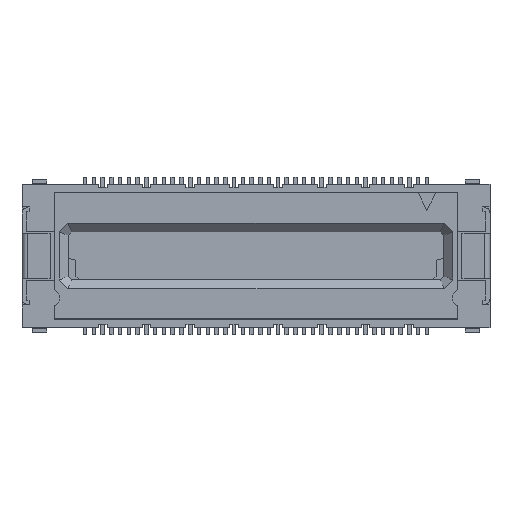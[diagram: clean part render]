
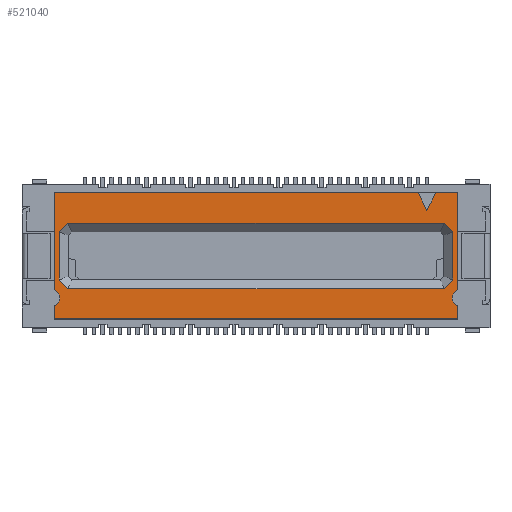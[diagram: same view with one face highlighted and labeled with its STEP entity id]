
A CAD part, top view. The second image highlights one B-rep face of the part: STEP entity #521040.
In plain terms, the highlighted planar face has unit normal (0, 0, 1).
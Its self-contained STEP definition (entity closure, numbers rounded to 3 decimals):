
#1170=CARTESIAN_POINT('',(-2.891,-1.978,4.));
#1180=DIRECTION('',(0.,0.,-1.));
#1190=DIRECTION('',(-1.,0.,0.));
#1200=AXIS2_PLACEMENT_3D('',#1170,#1180,#1190);
#1210=CIRCLE('',#1200,0.5);
#1220=CARTESIAN_POINT('',(-2.691,-1.52,4.));
#1230=VERTEX_POINT('',#1220);
#1240=CARTESIAN_POINT('',(-2.691,-2.436,4.));
#1250=VERTEX_POINT('',#1240);
#1260=EDGE_CURVE('',#1230,#1250,#1210,.T.);
#2340=CARTESIAN_POINT('',(20.034,-0.955,4.));
#2350=VERTEX_POINT('',#2340);
#2380=CARTESIAN_POINT('',(19.787,-1.202,4.));
#2390=DIRECTION('',(-0.707,-0.707,0.));
#2400=VECTOR('',#2390,1.);
#2410=LINE('',#2380,#2400);
#2420=CARTESIAN_POINT('',(19.541,-1.448,4.));
#2430=VERTEX_POINT('',#2420);
#2440=EDGE_CURVE('',#2350,#2430,#2410,.T.);
#60190=CARTESIAN_POINT('',(20.309,-1.52,4.));
#60200=VERTEX_POINT('',#60190);
#60360=CARTESIAN_POINT('',(20.309,-2.436,4.));
#60370=VERTEX_POINT('',#60360);
#60400=CARTESIAN_POINT('',(20.509,-1.978,4.));
#60410=DIRECTION('',(0.,0.,1.));
#60420=DIRECTION('',(1.,0.,0.));
#60430=AXIS2_PLACEMENT_3D('',#60400,#60410,#60420);
#60440=CIRCLE('',#60430,0.5);
#60450=EDGE_CURVE('',#60200,#60370,#60440,.T.);
#60590=CARTESIAN_POINT('',(20.309,-3.178,4.));
#60600=VERTEX_POINT('',#60590);
#60650=CARTESIAN_POINT('',(20.309,0.,4.));
#60660=DIRECTION('',(0.,-1.,0.));
#60670=VECTOR('',#60660,1.);
#60680=LINE('',#60650,#60670);
#60690=EDGE_CURVE('',#60370,#60600,#60680,.T.);
#65630=CARTESIAN_POINT('',(17.048,0.,4.));
#65640=DIRECTION('',(0.447,0.894,0.));
#65650=VECTOR('',#65640,1.);
#65660=LINE('',#65630,#65650);
#65670=CARTESIAN_POINT('',(18.559,3.022,4.));
#65680=VERTEX_POINT('',#65670);
#65690=CARTESIAN_POINT('',(19.059,4.022,4.));
#65700=VERTEX_POINT('',#65690);
#65710=EDGE_CURVE('',#65680,#65700,#65660,.T.);
#161820=CARTESIAN_POINT('',(20.07,0.,4.));
#161830=DIRECTION('',(0.447,-0.894,0.));
#161840=VECTOR('',#161830,1.);
#161850=LINE('',#161820,#161840);
#161860=CARTESIAN_POINT('',(18.059,4.022,4.));
#161870=VERTEX_POINT('',#161860);
#161880=EDGE_CURVE('',#161870,#65680,#161850,.T.);
#245680=CARTESIAN_POINT('',(-2.691,0.,4.));
#245690=DIRECTION('',(0.,1.,0.));
#245700=VECTOR('',#245690,1.);
#245710=LINE('',#245680,#245700);
#245720=CARTESIAN_POINT('',(-2.691,-3.178,4.));
#245730=VERTEX_POINT('',#245720);
#245740=EDGE_CURVE('',#245730,#1250,#245710,.T.);
#306320=CARTESIAN_POINT('',(20.034,1.799,4.));
#306330=VERTEX_POINT('',#306320);
#306360=CARTESIAN_POINT('',(20.034,0.422,4.));
#306370=DIRECTION('',(0.,1.,0.));
#306380=VECTOR('',#306370,1.);
#306390=LINE('',#306360,#306380);
#306400=EDGE_CURVE('',#2350,#306330,#306390,.T.);
#462220=CARTESIAN_POINT('',(19.541,2.292,4.));
#462230=VERTEX_POINT('',#462220);
#462260=CARTESIAN_POINT('',(19.787,2.045,4.));
#462270=DIRECTION('',(0.707,-0.707,0.));
#462280=VECTOR('',#462270,1.);
#462290=LINE('',#462260,#462280);
#462300=EDGE_CURVE('',#462230,#306330,#462290,.T.);
#520180=CARTESIAN_POINT('',(1.309,-2.313,4.));
#520190=DIRECTION('',(0.,0.,1.));
#520200=DIRECTION('',(1.,0.,0.));
#520210=AXIS2_PLACEMENT_3D('',#520180,#520190,#520200);
#520220=PLANE('',#520210);
#520230=ORIENTED_EDGE('',*,*,#2440,.T.);
#520240=ORIENTED_EDGE('',*,*,#306400,.F.);
#520250=ORIENTED_EDGE('',*,*,#462300,.T.);
#520260=CARTESIAN_POINT('',(-6.946,2.292,4.));
#520270=DIRECTION('',(1.,0.,0.));
#520280=VECTOR('',#520270,1.);
#520290=LINE('',#520260,#520280);
#520300=CARTESIAN_POINT('',(-1.924,2.292,4.));
#520310=VERTEX_POINT('',#520300);
#520320=EDGE_CURVE('',#520310,#462230,#520290,.T.);
#520330=ORIENTED_EDGE('',*,*,#520320,.T.);
#520340=CARTESIAN_POINT('',(-2.17,2.045,4.));
#520350=DIRECTION('',(-0.707,-0.707,0.));
#520360=VECTOR('',#520350,1.);
#520370=LINE('',#520340,#520360);
#520380=CARTESIAN_POINT('',(-2.416,1.799,4.));
#520390=VERTEX_POINT('',#520380);
#520400=EDGE_CURVE('',#520310,#520390,#520370,.T.);
#520410=ORIENTED_EDGE('',*,*,#520400,.F.);
#520420=CARTESIAN_POINT('',(-2.416,0.422,4.));
#520430=DIRECTION('',(0.,1.,0.));
#520440=VECTOR('',#520430,1.);
#520450=LINE('',#520420,#520440);
#520460=CARTESIAN_POINT('',(-2.416,-0.955,4.));
#520470=VERTEX_POINT('',#520460);
#520480=EDGE_CURVE('',#520470,#520390,#520450,.T.);
#520490=ORIENTED_EDGE('',*,*,#520480,.T.);
#520500=CARTESIAN_POINT('',(-2.17,-1.202,4.));
#520510=DIRECTION('',(0.707,-0.707,0.));
#520520=VECTOR('',#520510,1.);
#520530=LINE('',#520500,#520520);
#520540=CARTESIAN_POINT('',(-1.924,-1.448,4.));
#520550=VERTEX_POINT('',#520540);
#520560=EDGE_CURVE('',#520470,#520550,#520530,.T.);
#520570=ORIENTED_EDGE('',*,*,#520560,.F.);
#520580=CARTESIAN_POINT('',(-15.581,-1.448,4.));
#520590=DIRECTION('',(-1.,0.,0.));
#520600=VECTOR('',#520590,1.);
#520610=LINE('',#520580,#520600);
#520620=EDGE_CURVE('',#2430,#520550,#520610,.T.);
#520630=ORIENTED_EDGE('',*,*,#520620,.T.);
#520640=EDGE_LOOP('',(#520630,#520570,#520490,#520410,#520330,#520250,
#520240,#520230));
#520650=FACE_BOUND('',#520640,.T.);
#520660=ORIENTED_EDGE('',*,*,#245740,.F.);
#520670=ORIENTED_EDGE('',*,*,#1260,.T.);
#520680=CARTESIAN_POINT('',(-2.691,4.022,4.));
#520690=VERTEX_POINT('',#520680);
#520700=EDGE_CURVE('',#1230,#520690,#245710,.T.);
#520710=ORIENTED_EDGE('',*,*,#520700,.F.);
#520720=CARTESIAN_POINT('',(25.,4.022,4.));
#520730=DIRECTION('',(-1.,0.,0.));
#520740=VECTOR('',#520730,1.);
#520750=LINE('',#520720,#520740);
#520760=EDGE_CURVE('',#161870,#520690,#520750,.T.);
#520770=ORIENTED_EDGE('',*,*,#520760,.T.);
#520780=ORIENTED_EDGE('',*,*,#161880,.F.);
#520790=ORIENTED_EDGE('',*,*,#65710,.F.);
#520800=CARTESIAN_POINT('',(5.,4.022,4.));
#520810=DIRECTION('',(-1.,0.,0.));
#520820=VECTOR('',#520810,1.);
#520830=LINE('',#520800,#520820);
#520840=CARTESIAN_POINT('',(20.309,4.022,4.));
#520850=VERTEX_POINT('',#520840);
#520860=EDGE_CURVE('',#520850,#65700,#520830,.T.);
#520870=ORIENTED_EDGE('',*,*,#520860,.T.);
#520880=CARTESIAN_POINT('',(20.309,0.,4.));
#520890=DIRECTION('',(0.,-1.,0.));
#520900=VECTOR('',#520890,1.);
#520910=LINE('',#520880,#520900);
#520920=EDGE_CURVE('',#520850,#60200,#520910,.T.);
#520930=ORIENTED_EDGE('',*,*,#520920,.F.);
#520940=ORIENTED_EDGE('',*,*,#60450,.F.);
#520950=ORIENTED_EDGE('',*,*,#60690,.F.);
#520960=CARTESIAN_POINT('',(17.617,-3.178,4.));
#520970=DIRECTION('',(-1.,0.,0.));
#520980=VECTOR('',#520970,1.);
#520990=LINE('',#520960,#520980);
#521000=EDGE_CURVE('',#60600,#245730,#520990,.T.);
#521010=ORIENTED_EDGE('',*,*,#521000,.F.);
#521020=EDGE_LOOP('',(#521010,#520950,#520940,#520930,#520870,#520790,
#520780,#520770,#520710,#520670,#520660));
#521030=FACE_OUTER_BOUND('',#521020,.T.);
#521040=ADVANCED_FACE('',(#520650,#521030),#520220,.T.);
